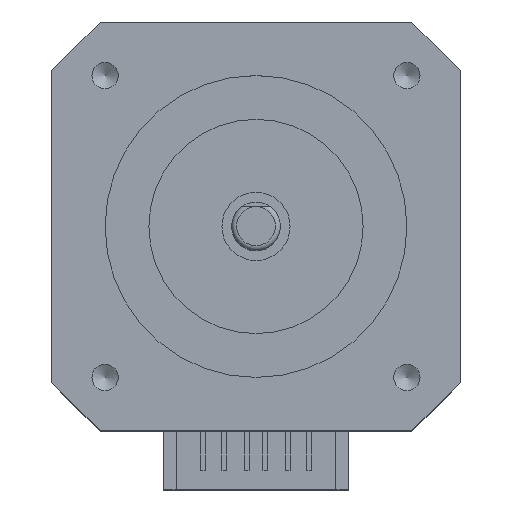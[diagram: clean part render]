
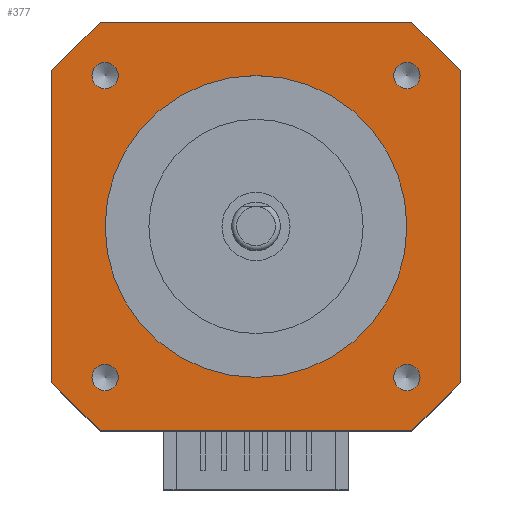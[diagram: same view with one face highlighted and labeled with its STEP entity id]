
A CAD part, top view. The second image highlights one B-rep face of the part: STEP entity #377.
In plain terms, the highlighted planar face has unit normal (0, 0, 1).
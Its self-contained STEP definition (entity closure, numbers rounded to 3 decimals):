
#118=PLANE('',#2869);
#377=ADVANCED_FACE('',(#1196,#1197,#1198,#1199,#1200,#1201),#118,.F.);
#629=LINE('',#3980,#944);
#630=LINE('',#3983,#945);
#631=LINE('',#3985,#946);
#632=LINE('',#3987,#947);
#633=LINE('',#3989,#948);
#634=LINE('',#3991,#949);
#635=LINE('',#3993,#950);
#636=LINE('',#3995,#951);
#944=VECTOR('',#3179,1.);
#945=VECTOR('',#3180,1.);
#946=VECTOR('',#3181,1.);
#947=VECTOR('',#3182,1.);
#948=VECTOR('',#3183,1.);
#949=VECTOR('',#3184,1.);
#950=VECTOR('',#3185,1.);
#951=VECTOR('',#3186,1.);
#1196=FACE_BOUND('',#1292,.T.);
#1197=FACE_BOUND('',#1293,.T.);
#1198=FACE_BOUND('',#1294,.T.);
#1199=FACE_BOUND('',#1295,.T.);
#1200=FACE_BOUND('',#1296,.T.);
#1201=FACE_BOUND('',#1297,.T.);
#1292=EDGE_LOOP('',(#1578));
#1293=EDGE_LOOP('',(#1579));
#1294=EDGE_LOOP('',(#1580));
#1295=EDGE_LOOP('',(#1581));
#1296=EDGE_LOOP('',(#1582,#1583,#1584,#1585,#1586,#1587,#1588,#1589));
#1297=EDGE_LOOP('',(#1590));
#1578=ORIENTED_EDGE('',*,*,#2543,.T.);
#1579=ORIENTED_EDGE('',*,*,#2544,.T.);
#1580=ORIENTED_EDGE('',*,*,#2545,.T.);
#1581=ORIENTED_EDGE('',*,*,#2546,.T.);
#1582=ORIENTED_EDGE('',*,*,#2547,.F.);
#1583=ORIENTED_EDGE('',*,*,#2548,.T.);
#1584=ORIENTED_EDGE('',*,*,#2549,.F.);
#1585=ORIENTED_EDGE('',*,*,#2550,.T.);
#1586=ORIENTED_EDGE('',*,*,#2551,.F.);
#1587=ORIENTED_EDGE('',*,*,#2552,.T.);
#1588=ORIENTED_EDGE('',*,*,#2553,.F.);
#1589=ORIENTED_EDGE('',*,*,#2554,.T.);
#1590=ORIENTED_EDGE('',*,*,#2555,.T.);
#2285=VERTEX_POINT('',#3973);
#2286=VERTEX_POINT('',#3975);
#2287=VERTEX_POINT('',#3977);
#2288=VERTEX_POINT('',#3979);
#2289=VERTEX_POINT('',#3981);
#2290=VERTEX_POINT('',#3982);
#2291=VERTEX_POINT('',#3984);
#2292=VERTEX_POINT('',#3986);
#2293=VERTEX_POINT('',#3988);
#2294=VERTEX_POINT('',#3990);
#2295=VERTEX_POINT('',#3992);
#2296=VERTEX_POINT('',#3994);
#2297=VERTEX_POINT('',#3997);
#2543=EDGE_CURVE('',#2285,#2285,#2814,.T.);
#2544=EDGE_CURVE('',#2286,#2286,#2815,.T.);
#2545=EDGE_CURVE('',#2287,#2287,#2816,.T.);
#2546=EDGE_CURVE('',#2288,#2288,#2817,.T.);
#2547=EDGE_CURVE('',#2289,#2290,#629,.T.);
#2548=EDGE_CURVE('',#2289,#2291,#630,.T.);
#2549=EDGE_CURVE('',#2292,#2291,#631,.T.);
#2550=EDGE_CURVE('',#2292,#2293,#632,.T.);
#2551=EDGE_CURVE('',#2294,#2293,#633,.T.);
#2552=EDGE_CURVE('',#2294,#2295,#634,.T.);
#2553=EDGE_CURVE('',#2296,#2295,#635,.T.);
#2554=EDGE_CURVE('',#2296,#2290,#636,.T.);
#2555=EDGE_CURVE('',#2297,#2297,#2818,.T.);
#2814=CIRCLE('',#2864,1.35);
#2815=CIRCLE('',#2865,1.35);
#2816=CIRCLE('',#2866,1.35);
#2817=CIRCLE('',#2867,1.35);
#2818=CIRCLE('',#2868,15.5);
#2864=AXIS2_PLACEMENT_3D('',#3972,#3171,#3172);
#2865=AXIS2_PLACEMENT_3D('',#3974,#3173,#3174);
#2866=AXIS2_PLACEMENT_3D('',#3976,#3175,#3176);
#2867=AXIS2_PLACEMENT_3D('',#3978,#3177,#3178);
#2868=AXIS2_PLACEMENT_3D('',#3996,#3187,#3188);
#2869=AXIS2_PLACEMENT_3D('',#3998,#3189,#3190);
#3171=DIRECTION('',(0.,0.,-1.));
#3172=DIRECTION('',(-1.,0.,0.));
#3173=DIRECTION('',(0.,0.,-1.));
#3174=DIRECTION('',(-1.,0.,0.));
#3175=DIRECTION('',(0.,0.,-1.));
#3176=DIRECTION('',(-1.,0.,0.));
#3177=DIRECTION('',(0.,0.,-1.));
#3178=DIRECTION('',(-1.,0.,0.));
#3179=DIRECTION('',(1.,0.,0.));
#3180=DIRECTION('',(-0.707,-0.707,0.));
#3181=DIRECTION('',(0.,1.,0.));
#3182=DIRECTION('',(0.707,-0.707,0.));
#3183=DIRECTION('',(-1.,0.,0.));
#3184=DIRECTION('',(0.707,0.707,0.));
#3185=DIRECTION('',(0.,-1.,0.));
#3186=DIRECTION('',(-0.707,0.707,0.));
#3187=DIRECTION('',(0.,0.,-1.));
#3188=DIRECTION('',(1.,0.,0.));
#3189=DIRECTION('',(0.,0.,-1.));
#3190=DIRECTION('',(-1.,0.,0.));
#3972=CARTESIAN_POINT('',(15.5,-15.5,0.));
#3973=CARTESIAN_POINT('',(14.15,-15.5,0.));
#3974=CARTESIAN_POINT('',(15.5,15.5,0.));
#3975=CARTESIAN_POINT('',(14.15,15.5,0.));
#3976=CARTESIAN_POINT('',(-15.5,15.5,0.));
#3977=CARTESIAN_POINT('',(-16.85,15.5,0.));
#3978=CARTESIAN_POINT('',(-15.5,-15.5,0.));
#3979=CARTESIAN_POINT('',(-16.85,-15.5,0.));
#3980=CARTESIAN_POINT('',(-21.,21.,0.));
#3981=CARTESIAN_POINT('',(-16.,21.,0.));
#3982=CARTESIAN_POINT('',(16.,21.,0.));
#3983=CARTESIAN_POINT('',(-16.,21.,0.));
#3984=CARTESIAN_POINT('',(-21.,16.,0.));
#3985=CARTESIAN_POINT('',(-21.,-21.,0.));
#3986=CARTESIAN_POINT('',(-21.,-16.,0.));
#3987=CARTESIAN_POINT('',(-21.,-16.,0.));
#3988=CARTESIAN_POINT('',(-16.,-21.,0.));
#3989=CARTESIAN_POINT('',(21.,-21.,0.));
#3990=CARTESIAN_POINT('',(16.,-21.,0.));
#3991=CARTESIAN_POINT('',(16.,-21.,0.));
#3992=CARTESIAN_POINT('',(21.,-16.,0.));
#3993=CARTESIAN_POINT('',(21.,21.,0.));
#3994=CARTESIAN_POINT('',(21.,16.,0.));
#3995=CARTESIAN_POINT('',(21.,16.,0.));
#3996=CARTESIAN_POINT('',(0.,0.,0.));
#3997=CARTESIAN_POINT('',(15.5,0.,0.));
#3998=CARTESIAN_POINT('',(-21.,-21.,0.));
